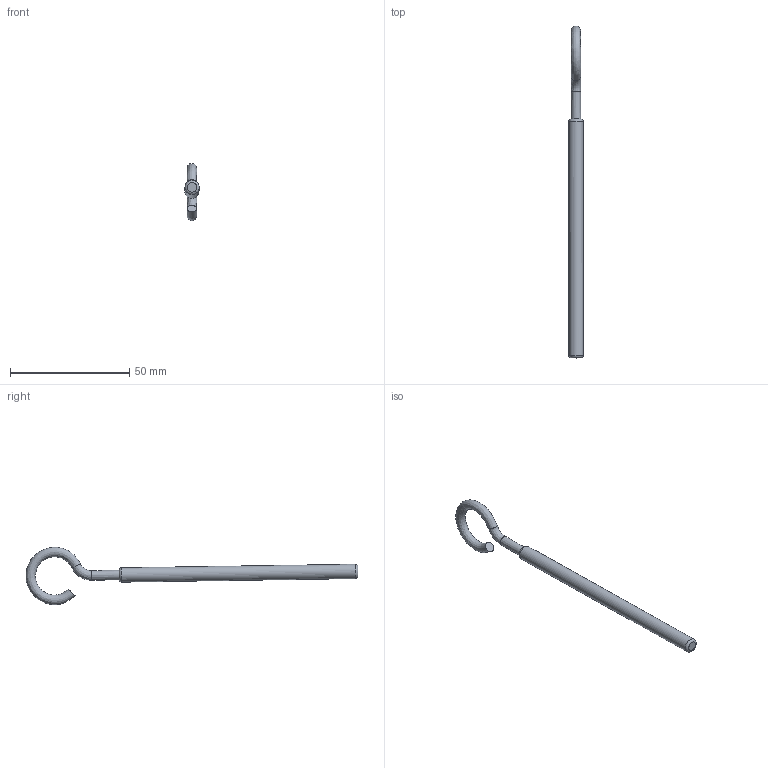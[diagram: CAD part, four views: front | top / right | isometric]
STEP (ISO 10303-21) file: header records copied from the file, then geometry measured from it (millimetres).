
FILE_DESCRIPTION(/* description */ (''),/* implementation_level */ '2;1');
FILE_NAME(/* name */ '02_Loop.stp',/* time_stamp */ '2022-12-02T11:01:33+01:00',/* author */ (''),/* organization */ (''),/* preprocessor_version */ 'ST-DEVELOPER v16.7',/* originating_system */ 'SIEMENS PLM Software NX 1930',/* authorisation */ '');
FILE_SCHEMA (('AUTOMOTIVE_DESIGN { 1 0 10303 214 3 1 1 1 }'));
Length unit declared in the file: millimetre
Products named in the file (1): hilkC0E0FDA296h1
Bounding box: 6.06 x 138.98 x 23.98 mm (x, y, z)
Volume: 3703.1 mm3; surface area: 2832.6 mm2
Topology: 2 solids, 2 shells, 10 faces, 15 edges, 9 vertices
Faces by surface type: plane 4, bspline 3, torus 2, cylinder 1
Full cylindrical faces by diameter (mm): 6 x1
Entity records: 589 total; most frequent: CARTESIAN_POINT 414, DIRECTION 28, EDGE_LOOP 16, ORIENTED_EDGE 16, AXIS2_PLACEMENT_3D 14, FACE_BOUND 12, ADVANCED_FACE 10, VERTEX_POINT 8
